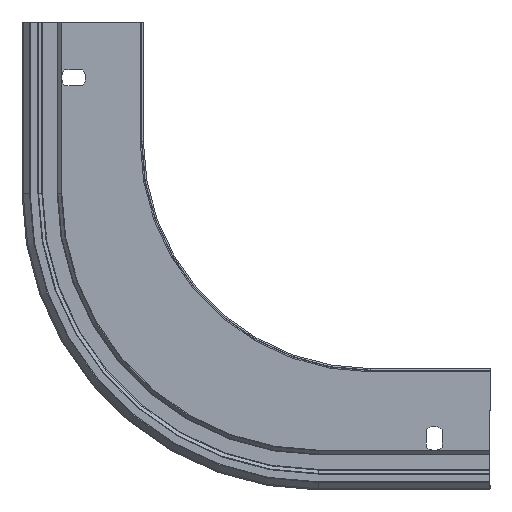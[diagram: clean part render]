
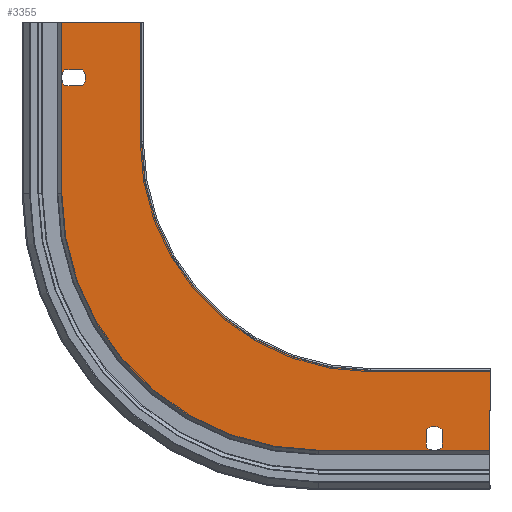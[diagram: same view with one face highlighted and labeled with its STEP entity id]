
A CAD part, left-side view. The second image highlights one B-rep face of the part: STEP entity #3355.
In plain terms, the highlighted planar face has unit normal (-1, 0, 0).
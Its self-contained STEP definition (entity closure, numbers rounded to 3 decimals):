
#85 = CIRCLE ( 'NONE', #3831, 6. ) ;
#88 = CARTESIAN_POINT ( 'NONE',  ( 0., 215.531, -129.2 ) ) ;
#101 = VECTOR ( 'NONE', #4256, 1000. ) ;
#118 = VECTOR ( 'NONE', #3122, 1000. ) ;
#131 = LINE ( 'NONE', #3332, #4973 ) ;
#140 = CARTESIAN_POINT ( 'NONE',  ( 0., 0., 0.331 ) ) ;
#147 = ORIENTED_EDGE ( 'NONE', *, *, #913, .F. ) ;
#189 = CIRCLE ( 'NONE', #469, 129.531 ) ;
#190 = CARTESIAN_POINT ( 'NONE',  ( 0., 28., -12. ) ) ;
#283 = VECTOR ( 'NONE', #839, 1000. ) ;
#292 = VERTEX_POINT ( 'NONE', #140 ) ;
#305 = ORIENTED_EDGE ( 'NONE', *, *, #2141, .T. ) ;
#337 = CARTESIAN_POINT ( 'NONE',  ( 0., 60., -155.2 ) ) ;
#361 = DIRECTION ( 'NONE',  ( 1., 0., 0. ) ) ;
#413 = CARTESIAN_POINT ( 'NONE',  ( 0., 60., -40. ) ) ;
#460 = CARTESIAN_POINT ( 'NONE',  ( 0., 86., 0.331 ) ) ;
#469 = AXIS2_PLACEMENT_3D ( 'NONE', #4892, #5338, #1775 ) ;
#502 = ORIENTED_EDGE ( 'NONE', *, *, #5167, .F. ) ;
#575 = VECTOR ( 'NONE', #2820, 1000. ) ;
#579 = DIRECTION ( 'NONE',  ( 0., 0., -1. ) ) ;
#673 = AXIS2_PLACEMENT_3D ( 'NONE', #1106, #1947, #1564 ) ;
#790 = VECTOR ( 'NONE', #4270, 1000. ) ;
#820 = FACE_BOUND ( 'NONE', #5172, .T. ) ;
#823 = EDGE_CURVE ( 'NONE', #292, #3358, #1149, .T. ) ;
#830 = ORIENTED_EDGE ( 'NONE', *, *, #3677, .T. ) ;
#837 = VECTOR ( 'NONE', #5061, 1000. ) ;
#839 = DIRECTION ( 'NONE',  ( 0., 0., -1. ) ) ;
#867 = VERTEX_POINT ( 'NONE', #1236 ) ;
#913 = EDGE_CURVE ( 'NONE', #1719, #5699, #1386, .T. ) ;
#994 = CARTESIAN_POINT ( 'NONE',  ( 0., 0., -183.2 ) ) ;
#1038 = ORIENTED_EDGE ( 'NONE', *, *, #2377, .T. ) ;
#1063 = CARTESIAN_POINT ( 'NONE',  ( 0., 209.2, -187.2 ) ) ;
#1106 = CARTESIAN_POINT ( 'NONE',  ( 0., 28., -6. ) ) ;
#1149 = LINE ( 'NONE', #4890, #1412 ) ;
#1154 = VECTOR ( 'NONE', #4084, 1000. ) ;
#1171 = ORIENTED_EDGE ( 'NONE', *, *, #1766, .F. ) ;
#1201 = ORIENTED_EDGE ( 'NONE', *, *, #823, .F. ) ;
#1236 = CARTESIAN_POINT ( 'NONE',  ( 0., 32., -10.472 ) ) ;
#1295 = LINE ( 'NONE', #5479, #283 ) ;
#1334 = VERTEX_POINT ( 'NONE', #2833 ) ;
#1386 = LINE ( 'NONE', #2286, #837 ) ;
#1412 = VECTOR ( 'NONE', #2977, 1000. ) ;
#1517 = VECTOR ( 'NONE', #3885, 1000. ) ;
#1537 = LINE ( 'NONE', #3372, #1517 ) ;
#1544 = DIRECTION ( 'NONE',  ( 1., 0., 0. ) ) ;
#1564 = DIRECTION ( 'NONE',  ( 0., 0., -1. ) ) ;
#1717 = DIRECTION ( 'NONE',  ( -1., 0., 0. ) ) ;
#1719 = VERTEX_POINT ( 'NONE', #2467 ) ;
#1739 = VERTEX_POINT ( 'NONE', #190 ) ;
#1746 = AXIS2_PLACEMENT_3D ( 'NONE', #4178, #3739, #579 ) ;
#1766 = EDGE_CURVE ( 'NONE', #3358, #5680, #1537, .T. ) ;
#1775 = DIRECTION ( 'NONE',  ( 0., 0., 1. ) ) ;
#1894 = CIRCLE ( 'NONE', #5247, 115.2 ) ;
#1942 = VERTEX_POINT ( 'NONE', #2616 ) ;
#1947 = DIRECTION ( 'NONE',  ( 1., 0., 0. ) ) ;
#1957 = EDGE_CURVE ( 'NONE', #3468, #1739, #85, .T. ) ;
#1971 = VERTEX_POINT ( 'NONE', #460 ) ;
#1998 = CARTESIAN_POINT ( 'NONE',  ( 0., 215.531, -129.2 ) ) ;
#2052 = DIRECTION ( 'NONE',  ( 1., 0., 0. ) ) ;
#2140 = CARTESIAN_POINT ( 'NONE',  ( 0., 0., 0. ) ) ;
#2141 = EDGE_CURVE ( 'NONE', #1334, #3137, #3920, .T. ) ;
#2143 = EDGE_CURVE ( 'NONE', #1739, #867, #3729, .T. ) ;
#2159 = ORIENTED_EDGE ( 'NONE', *, *, #2143, .T. ) ;
#2191 = AXIS2_PLACEMENT_3D ( 'NONE', #1063, #1544, #5039 ) ;
#2286 = CARTESIAN_POINT ( 'NONE',  ( 0., 174.2, -215.2 ) ) ;
#2326 = EDGE_CURVE ( 'NONE', #5680, #4350, #1894, .T. ) ;
#2334 = CARTESIAN_POINT ( 'NONE',  ( 0., 215.531, -215.2 ) ) ;
#2377 = EDGE_CURVE ( 'NONE', #1971, #5781, #189, .T. ) ;
#2441 = LINE ( 'NONE', #5330, #790 ) ;
#2467 = CARTESIAN_POINT ( 'NONE',  ( 0., 175.2, -215.2 ) ) ;
#2485 = CARTESIAN_POINT ( 'NONE',  ( 0., 204.728, -191.2 ) ) ;
#2580 = EDGE_CURVE ( 'NONE', #4350, #1719, #1295, .T. ) ;
#2587 = AXIS2_PLACEMENT_3D ( 'NONE', #2140, #361, #3914 ) ;
#2616 = CARTESIAN_POINT ( 'NONE',  ( 0., 32., -1.528 ) ) ;
#2820 = DIRECTION ( 'NONE',  ( 0., -1., 0. ) ) ;
#2833 = CARTESIAN_POINT ( 'NONE',  ( 0., 213.672, -191.2 ) ) ;
#2919 = CARTESIAN_POINT ( 'NONE',  ( 0., 28., -6. ) ) ;
#2931 = LINE ( 'NONE', #88, #101 ) ;
#2977 = DIRECTION ( 'NONE',  ( 0., 0., -1. ) ) ;
#3082 = EDGE_LOOP ( 'NONE', ( #1201, #502, #1038, #5347, #147, #5460, #4563, #1171 ) ) ;
#3122 = DIRECTION ( 'NONE',  ( 0., 0., -1. ) ) ;
#3137 = VERTEX_POINT ( 'NONE', #5250 ) ;
#3243 = AXIS2_PLACEMENT_3D ( 'NONE', #2919, #2052, #5218 ) ;
#3301 = ORIENTED_EDGE ( 'NONE', *, *, #3719, .T. ) ;
#3332 = CARTESIAN_POINT ( 'NONE',  ( 0., 0., -191.2 ) ) ;
#3355 = ADVANCED_FACE ( 'NONE', ( #820, #4417, #3948 ), #3519, .F. ) ;
#3358 = VERTEX_POINT ( 'NONE', #3584 ) ;
#3372 = CARTESIAN_POINT ( 'NONE',  ( 0., 0., -40. ) ) ;
#3419 = VERTEX_POINT ( 'NONE', #5282 ) ;
#3468 = VERTEX_POINT ( 'NONE', #4532 ) ;
#3519 = PLANE ( 'NONE',  #2587 ) ;
#3556 = CIRCLE ( 'NONE', #673, 6. ) ;
#3561 = DIRECTION ( 'NONE',  ( 0., 0., -1. ) ) ;
#3584 = CARTESIAN_POINT ( 'NONE',  ( 0., 0., -40. ) ) ;
#3610 = DIRECTION ( 'NONE',  ( 0., 0., 1. ) ) ;
#3652 = ORIENTED_EDGE ( 'NONE', *, *, #3890, .T. ) ;
#3677 = EDGE_CURVE ( 'NONE', #4303, #1334, #131, .T. ) ;
#3714 = CARTESIAN_POINT ( 'NONE',  ( 0., 204.728, -183.2 ) ) ;
#3719 = EDGE_CURVE ( 'NONE', #3137, #4548, #5665, .T. ) ;
#3729 = CIRCLE ( 'NONE', #3243, 6. ) ;
#3739 = DIRECTION ( 'NONE',  ( 1., 0., 0. ) ) ;
#3767 = DIRECTION ( 'NONE',  ( 0., 1., 0. ) ) ;
#3831 = AXIS2_PLACEMENT_3D ( 'NONE', #4538, #4096, #3561 ) ;
#3885 = DIRECTION ( 'NONE',  ( 0., 1., 0. ) ) ;
#3890 = EDGE_CURVE ( 'NONE', #867, #1942, #5505, .T. ) ;
#3914 = DIRECTION ( 'NONE',  ( 0., 0., -1. ) ) ;
#3920 = CIRCLE ( 'NONE', #2191, 6. ) ;
#3948 = FACE_OUTER_BOUND ( 'NONE', #3082, .T. ) ;
#4053 = EDGE_CURVE ( 'NONE', #1942, #3419, #3556, .T. ) ;
#4084 = DIRECTION ( 'NONE',  ( 0., 0., 1. ) ) ;
#4087 = EDGE_CURVE ( 'NONE', #5781, #5699, #2931, .T. ) ;
#4096 = DIRECTION ( 'NONE',  ( 1., 0., 0. ) ) ;
#4099 = ORIENTED_EDGE ( 'NONE', *, *, #5158, .T. ) ;
#4178 = CARTESIAN_POINT ( 'NONE',  ( 0., 209.2, -187.2 ) ) ;
#4256 = DIRECTION ( 'NONE',  ( 0., 0., -1. ) ) ;
#4270 = DIRECTION ( 'NONE',  ( 0., -1., 0. ) ) ;
#4303 = VERTEX_POINT ( 'NONE', #2485 ) ;
#4350 = VERTEX_POINT ( 'NONE', #4570 ) ;
#4417 = FACE_BOUND ( 'NONE', #4483, .T. ) ;
#4424 = CIRCLE ( 'NONE', #1746, 6. ) ;
#4483 = EDGE_LOOP ( 'NONE', ( #830, #305, #3301, #5653 ) ) ;
#4532 = CARTESIAN_POINT ( 'NONE',  ( 0., 24., -10.472 ) ) ;
#4538 = CARTESIAN_POINT ( 'NONE',  ( 0., 28., -6. ) ) ;
#4548 = VERTEX_POINT ( 'NONE', #3714 ) ;
#4563 = ORIENTED_EDGE ( 'NONE', *, *, #2326, .F. ) ;
#4570 = CARTESIAN_POINT ( 'NONE',  ( 0., 175.2, -155.2 ) ) ;
#4890 = CARTESIAN_POINT ( 'NONE',  ( 0., 0., 0. ) ) ;
#4892 = CARTESIAN_POINT ( 'NONE',  ( 0., 86., -129.2 ) ) ;
#4973 = VECTOR ( 'NONE', #3767, 1000. ) ;
#4990 = EDGE_CURVE ( 'NONE', #4548, #4303, #4424, .T. ) ;
#4997 = ORIENTED_EDGE ( 'NONE', *, *, #4053, .T. ) ;
#5039 = DIRECTION ( 'NONE',  ( 0., 0., -1. ) ) ;
#5061 = DIRECTION ( 'NONE',  ( 0., 1., 0. ) ) ;
#5158 = EDGE_CURVE ( 'NONE', #3419, #3468, #5670, .T. ) ;
#5167 = EDGE_CURVE ( 'NONE', #1971, #292, #2441, .T. ) ;
#5172 = EDGE_LOOP ( 'NONE', ( #3652, #4997, #4099, #5332, #2159 ) ) ;
#5188 = CARTESIAN_POINT ( 'NONE',  ( 0., 24., 0. ) ) ;
#5218 = DIRECTION ( 'NONE',  ( 0., 0., -1. ) ) ;
#5247 = AXIS2_PLACEMENT_3D ( 'NONE', #337, #1717, #3610 ) ;
#5250 = CARTESIAN_POINT ( 'NONE',  ( 0., 213.672, -183.2 ) ) ;
#5282 = CARTESIAN_POINT ( 'NONE',  ( 0., 24., -1.528 ) ) ;
#5330 = CARTESIAN_POINT ( 'NONE',  ( 0., 86., 0.331 ) ) ;
#5332 = ORIENTED_EDGE ( 'NONE', *, *, #1957, .T. ) ;
#5338 = DIRECTION ( 'NONE',  ( -1., 0., 0. ) ) ;
#5347 = ORIENTED_EDGE ( 'NONE', *, *, #4087, .T. ) ;
#5460 = ORIENTED_EDGE ( 'NONE', *, *, #2580, .F. ) ;
#5479 = CARTESIAN_POINT ( 'NONE',  ( 0., 175.2, -155.2 ) ) ;
#5505 = LINE ( 'NONE', #5894, #1154 ) ;
#5653 = ORIENTED_EDGE ( 'NONE', *, *, #4990, .T. ) ;
#5665 = LINE ( 'NONE', #994, #575 ) ;
#5670 = LINE ( 'NONE', #5188, #118 ) ;
#5680 = VERTEX_POINT ( 'NONE', #413 ) ;
#5699 = VERTEX_POINT ( 'NONE', #2334 ) ;
#5781 = VERTEX_POINT ( 'NONE', #1998 ) ;
#5894 = CARTESIAN_POINT ( 'NONE',  ( 0., 32., 0. ) ) ;
